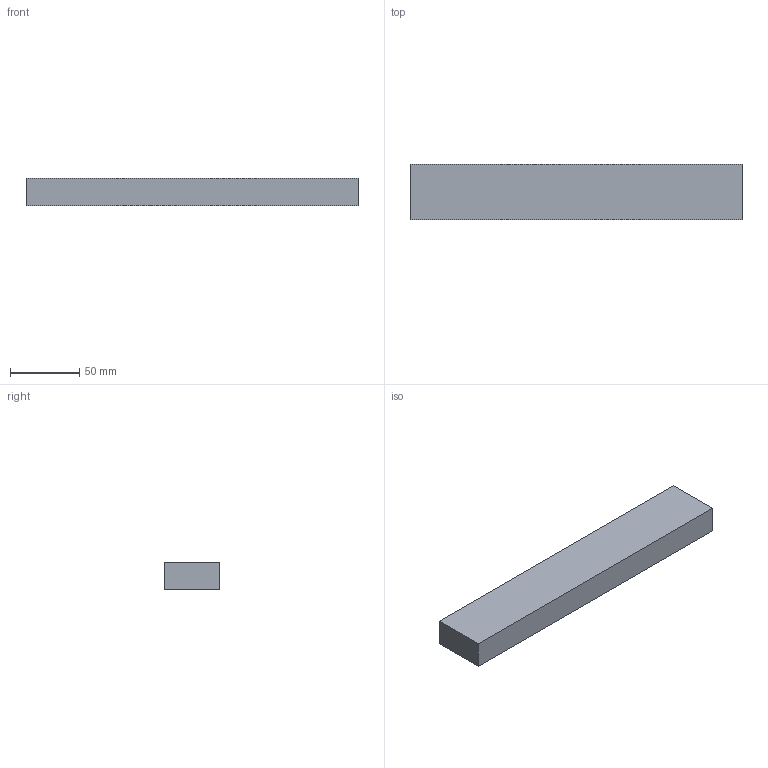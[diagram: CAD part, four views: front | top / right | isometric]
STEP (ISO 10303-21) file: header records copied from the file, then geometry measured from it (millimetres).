
FILE_DESCRIPTION(('Open CASCADE Model'),'2;1');
FILE_NAME('Open CASCADE Shape Model','2026-10-28T04:25:25',('Author'),( 'Open CASCADE'),'Open CASCADE STEP processor 7.8','Open CASCADE 7.8' ,'Unknown');
FILE_SCHEMA(('AUTOMOTIVE_DESIGN { 1 0 10303 214 1 1 1 1 }'));
Length unit declared in the file: millimetre
Products named in the file (1): Open CASCADE STEP translator 7.8 1
Bounding box: 240 x 40 x 20 mm (x, y, z)
Volume: 192000 mm3; surface area: 30400 mm2
Topology: 1 solids, 1 shells, 6 faces, 12 edges, 8 vertices
Faces by surface type: plane 6
Entity records: 322 total; most frequent: CARTESIAN_POINT 51, DIRECTION 50, LINE 36, VECTOR 36, ORIENTED_EDGE 24, PCURVE 24, DEFINITIONAL_REPRESENTATION 24, EDGE_CURVE 12
